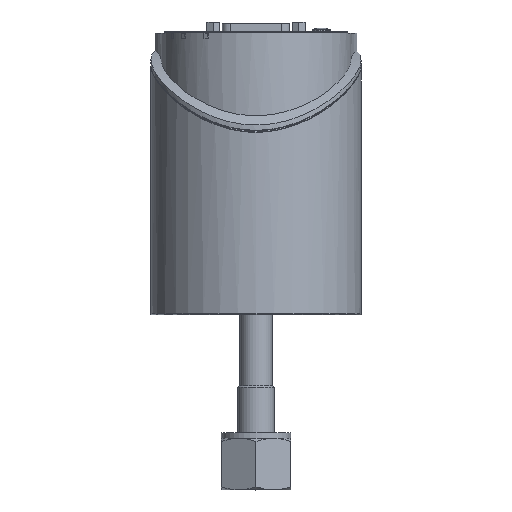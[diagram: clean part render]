
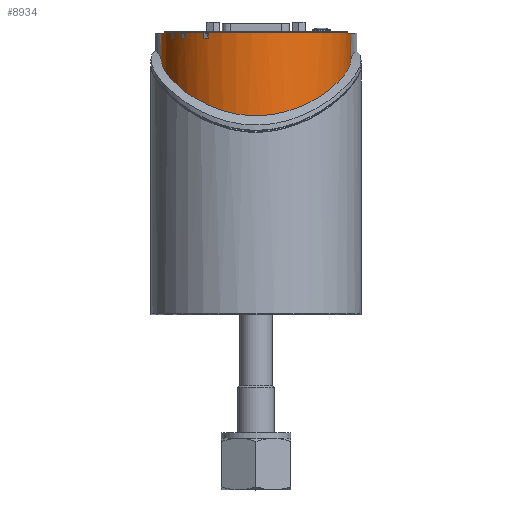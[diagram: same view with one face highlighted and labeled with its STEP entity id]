
A CAD part, top view. The second image highlights one B-rep face of the part: STEP entity #8934.
In plain terms, the highlighted cylindrical face has radius 37 mm (diameter 74 mm), a partial arc.
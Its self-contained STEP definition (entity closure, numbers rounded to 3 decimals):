
#302=B_SPLINE_CURVE_WITH_KNOTS('',3,(#16377,#16378,#16379,#16380,#16381,
#16382,#16383,#16384,#16385,#16386,#16387,#16388,#16389,#16390,#16391,#16392,
#16393,#16394,#16395,#16396,#16397,#16398,#16399,#16400,#16401,#16402,#16403,
#16404,#16405,#16406,#16407,#16408,#16409,#16410),.UNSPECIFIED.,.F.,.F.,
(4,2,2,2,2,2,2,2,2,2,2,2,2,2,2,2,4),(-17.683,-16.89,
-16.097,-15.304,-14.511,-13.801,-13.09,
-12.38,-11.67,-10.959,-10.249,
-9.538,-8.828,-8.035,-7.242,-6.449,
-5.656),.UNSPECIFIED.);
#619=LINE('',#16347,#1306);
#623=LINE('',#16355,#1310);
#630=LINE('',#16368,#1317);
#631=LINE('',#16371,#1318);
#632=LINE('',#16375,#1319);
#633=LINE('',#16412,#1320);
#634=LINE('',#16415,#1321);
#635=LINE('',#16419,#1322);
#1306=VECTOR('',#11328,10.);
#1310=VECTOR('',#11334,10.);
#1317=VECTOR('',#11343,10.);
#1318=VECTOR('',#11346,10.);
#1319=VECTOR('',#11349,10.486);
#1320=VECTOR('',#11350,10.486);
#1321=VECTOR('',#11353,10.);
#1322=VECTOR('',#11358,10.);
#1781=CYLINDRICAL_SURFACE('',#9671,37.);
#2166=FACE_OUTER_BOUND('',#2696,.T.);
#2696=EDGE_LOOP('',(#6526,#6527,#6528,#6529,#6530,#6531,#6532,#6533,#6534,
#6535,#6536,#6537,#6538,#6539,#6540,#6541));
#3185=CIRCLE('',#9642,37.);
#3187=CIRCLE('',#9646,37.);
#3189=CIRCLE('',#9650,37.);
#3195=CIRCLE('',#9672,37.);
#3196=CIRCLE('',#9673,37.);
#3197=CIRCLE('',#9674,37.);
#3198=CIRCLE('',#9675,37.);
#3731=VERTEX_POINT('',#16207);
#3737=VERTEX_POINT('',#16219);
#3745=VERTEX_POINT('',#16236);
#3751=VERTEX_POINT('',#16248);
#3759=VERTEX_POINT('',#16265);
#3765=VERTEX_POINT('',#16277);
#3793=VERTEX_POINT('',#16346);
#3796=VERTEX_POINT('',#16354);
#3801=VERTEX_POINT('',#16366);
#3802=VERTEX_POINT('',#16370);
#3803=VERTEX_POINT('',#16372);
#3804=VERTEX_POINT('',#16374);
#3805=VERTEX_POINT('',#16376);
#3806=VERTEX_POINT('',#16411);
#3807=VERTEX_POINT('',#16414);
#3808=VERTEX_POINT('',#16417);
#4728=EDGE_CURVE('',#3731,#3737,#3185,.T.);
#4742=EDGE_CURVE('',#3745,#3751,#3187,.T.);
#4756=EDGE_CURVE('',#3759,#3765,#3189,.T.);
#4786=EDGE_CURVE('',#3793,#3759,#619,.F.);
#4790=EDGE_CURVE('',#3796,#3745,#623,.F.);
#4797=EDGE_CURVE('',#3751,#3801,#630,.T.);
#4798=EDGE_CURVE('',#3737,#3802,#631,.T.);
#4799=EDGE_CURVE('',#3802,#3803,#3195,.T.);
#4800=EDGE_CURVE('',#3803,#3804,#632,.T.);
#4801=EDGE_CURVE('',#3804,#3805,#302,.T.);
#4802=EDGE_CURVE('',#3806,#3805,#633,.T.);
#4803=EDGE_CURVE('',#3806,#3793,#3196,.T.);
#4804=EDGE_CURVE('',#3765,#3807,#634,.T.);
#4805=EDGE_CURVE('',#3807,#3796,#3197,.T.);
#4806=EDGE_CURVE('',#3801,#3808,#3198,.T.);
#4807=EDGE_CURVE('',#3808,#3731,#635,.F.);
#6526=ORIENTED_EDGE('',*,*,#4728,.T.);
#6527=ORIENTED_EDGE('',*,*,#4798,.T.);
#6528=ORIENTED_EDGE('',*,*,#4799,.T.);
#6529=ORIENTED_EDGE('',*,*,#4800,.T.);
#6530=ORIENTED_EDGE('',*,*,#4801,.T.);
#6531=ORIENTED_EDGE('',*,*,#4802,.F.);
#6532=ORIENTED_EDGE('',*,*,#4803,.T.);
#6533=ORIENTED_EDGE('',*,*,#4786,.T.);
#6534=ORIENTED_EDGE('',*,*,#4756,.T.);
#6535=ORIENTED_EDGE('',*,*,#4804,.T.);
#6536=ORIENTED_EDGE('',*,*,#4805,.T.);
#6537=ORIENTED_EDGE('',*,*,#4790,.T.);
#6538=ORIENTED_EDGE('',*,*,#4742,.T.);
#6539=ORIENTED_EDGE('',*,*,#4797,.T.);
#6540=ORIENTED_EDGE('',*,*,#4806,.T.);
#6541=ORIENTED_EDGE('',*,*,#4807,.T.);
#8934=ADVANCED_FACE('',(#2166),#1781,.T.);
#9642=AXIS2_PLACEMENT_3D('',#16221,#11231,#11232);
#9646=AXIS2_PLACEMENT_3D('',#16250,#11250,#11251);
#9650=AXIS2_PLACEMENT_3D('',#16279,#11269,#11270);
#9671=AXIS2_PLACEMENT_3D('',#16369,#11344,#11345);
#9672=AXIS2_PLACEMENT_3D('',#16373,#11347,#11348);
#9673=AXIS2_PLACEMENT_3D('',#16413,#11351,#11352);
#9674=AXIS2_PLACEMENT_3D('',#16416,#11354,#11355);
#9675=AXIS2_PLACEMENT_3D('',#16418,#11356,#11357);
#11231=DIRECTION('center_axis',(0.,-1.,0.));
#11232=DIRECTION('ref_axis',(0.992,0.,-0.123));
#11250=DIRECTION('center_axis',(0.,-1.,0.));
#11251=DIRECTION('ref_axis',(0.992,0.,-0.123));
#11269=DIRECTION('center_axis',(0.,-1.,0.));
#11270=DIRECTION('ref_axis',(0.992,0.,-0.123));
#11328=DIRECTION('',(0.008,1.,0.004));
#11334=DIRECTION('',(0.006,1.,0.007));
#11343=DIRECTION('',(-0.005,1.,-0.007));
#11344=DIRECTION('center_axis',(0.,-1.,0.));
#11345=DIRECTION('ref_axis',(1.,0.,0.));
#11346=DIRECTION('',(-0.004,1.,-0.008));
#11347=DIRECTION('center_axis',(0.,-1.,0.));
#11348=DIRECTION('ref_axis',(1.,0.,0.));
#11349=DIRECTION('',(0.,-1.,0.));
#11350=DIRECTION('',(0.,-1.,0.));
#11351=DIRECTION('center_axis',(0.,-1.,0.));
#11352=DIRECTION('ref_axis',(1.,0.,0.));
#11353=DIRECTION('',(-0.007,1.,-0.005));
#11354=DIRECTION('center_axis',(0.,-1.,0.));
#11355=DIRECTION('ref_axis',(1.,0.,0.));
#11356=DIRECTION('center_axis',(0.,-1.,0.));
#11357=DIRECTION('ref_axis',(1.,0.,0.));
#11358=DIRECTION('',(0.004,1.,0.008));
#16207=CARTESIAN_POINT('',(-32.174,39.,18.271));
#16219=CARTESIAN_POINT('',(-33.139,39.,16.457));
#16221=CARTESIAN_POINT('Origin',(0.,39.,0.));
#16236=CARTESIAN_POINT('',(-27.673,39.,24.561));
#16248=CARTESIAN_POINT('',(-28.993,39.,22.987));
#16250=CARTESIAN_POINT('Origin',(0.,39.,0.));
#16265=CARTESIAN_POINT('',(-18.728,39.,31.91));
#16277=CARTESIAN_POINT('',(-20.47,39.,30.821));
#16279=CARTESIAN_POINT('Origin',(0.,39.,0.));
#16346=CARTESIAN_POINT('',(-18.713,41.,31.919));
#16347=CARTESIAN_POINT('',(-18.728,39.,31.91));
#16354=CARTESIAN_POINT('',(-27.661,41.,24.574));
#16355=CARTESIAN_POINT('',(-27.673,39.,24.561));
#16366=CARTESIAN_POINT('',(-29.004,41.,22.974));
#16368=CARTESIAN_POINT('',(-28.993,39.,22.987));
#16369=CARTESIAN_POINT('Origin',(0.,41.,0.));
#16370=CARTESIAN_POINT('',(-33.146,41.,16.441));
#16371=CARTESIAN_POINT('',(-33.139,39.,16.457));
#16372=CARTESIAN_POINT('',(-37.,41.,0.));
#16373=CARTESIAN_POINT('Origin',(0.,41.,0.));
#16374=CARTESIAN_POINT('',(-37.,30.514,0.));
#16375=CARTESIAN_POINT('',(-37.,41.,0.));
#16376=CARTESIAN_POINT('',(37.,30.514,0.));
#16377=CARTESIAN_POINT('Ctrl Pts',(-37.,30.514,0.));
#16378=CARTESIAN_POINT('Ctrl Pts',(-37.,29.603,2.481));
#16379=CARTESIAN_POINT('Ctrl Pts',(-36.747,28.579,5.01));
#16380=CARTESIAN_POINT('Ctrl Pts',(-35.719,26.361,9.98));
#16381=CARTESIAN_POINT('Ctrl Pts',(-34.944,25.168,12.421));
#16382=CARTESIAN_POINT('Ctrl Pts',(-32.927,22.706,17.065));
#16383=CARTESIAN_POINT('Ctrl Pts',(-31.683,21.436,19.27));
#16384=CARTESIAN_POINT('Ctrl Pts',(-28.824,18.941,23.331));
#16385=CARTESIAN_POINT('Ctrl Pts',(-27.208,17.715,25.187));
#16386=CARTESIAN_POINT('Ctrl Pts',(-23.93,15.555,28.301));
#16387=CARTESIAN_POINT('Ctrl Pts',(-22.177,14.53,29.706));
#16388=CARTESIAN_POINT('Ctrl Pts',(-18.336,12.621,32.219));
#16389=CARTESIAN_POINT('Ctrl Pts',(-16.246,11.74,33.328));
#16390=CARTESIAN_POINT('Ctrl Pts',(-11.839,10.264,35.136));
#16391=CARTESIAN_POINT('Ctrl Pts',(-9.516,9.671,35.837));
#16392=CARTESIAN_POINT('Ctrl Pts',(-4.781,8.874,36.769));
#16393=CARTESIAN_POINT('Ctrl Pts',(-2.368,8.672,37.));
#16394=CARTESIAN_POINT('Ctrl Pts',(2.368,8.672,37.));
#16395=CARTESIAN_POINT('Ctrl Pts',(4.781,8.874,36.769));
#16396=CARTESIAN_POINT('Ctrl Pts',(9.516,9.671,35.837));
#16397=CARTESIAN_POINT('Ctrl Pts',(11.839,10.264,35.136));
#16398=CARTESIAN_POINT('Ctrl Pts',(16.246,11.74,33.328));
#16399=CARTESIAN_POINT('Ctrl Pts',(18.336,12.621,32.219));
#16400=CARTESIAN_POINT('Ctrl Pts',(22.177,14.53,29.706));
#16401=CARTESIAN_POINT('Ctrl Pts',(23.93,15.555,28.301));
#16402=CARTESIAN_POINT('Ctrl Pts',(27.208,17.715,25.187));
#16403=CARTESIAN_POINT('Ctrl Pts',(28.824,18.941,23.331));
#16404=CARTESIAN_POINT('Ctrl Pts',(31.683,21.436,19.27));
#16405=CARTESIAN_POINT('Ctrl Pts',(32.927,22.706,17.065));
#16406=CARTESIAN_POINT('Ctrl Pts',(34.944,25.168,12.421));
#16407=CARTESIAN_POINT('Ctrl Pts',(35.719,26.361,9.98));
#16408=CARTESIAN_POINT('Ctrl Pts',(36.747,28.579,5.01));
#16409=CARTESIAN_POINT('Ctrl Pts',(37.,29.603,2.481));
#16410=CARTESIAN_POINT('Ctrl Pts',(37.,30.514,0.));
#16411=CARTESIAN_POINT('',(37.,41.,0.));
#16412=CARTESIAN_POINT('',(37.,41.,0.));
#16413=CARTESIAN_POINT('Origin',(0.,41.,0.));
#16414=CARTESIAN_POINT('',(-20.485,41.,30.812));
#16415=CARTESIAN_POINT('',(-20.47,39.,30.821));
#16416=CARTESIAN_POINT('Origin',(0.,41.,0.));
#16417=CARTESIAN_POINT('',(-32.166,41.,18.286));
#16418=CARTESIAN_POINT('Origin',(0.,41.,0.));
#16419=CARTESIAN_POINT('',(-32.174,39.,18.271));
